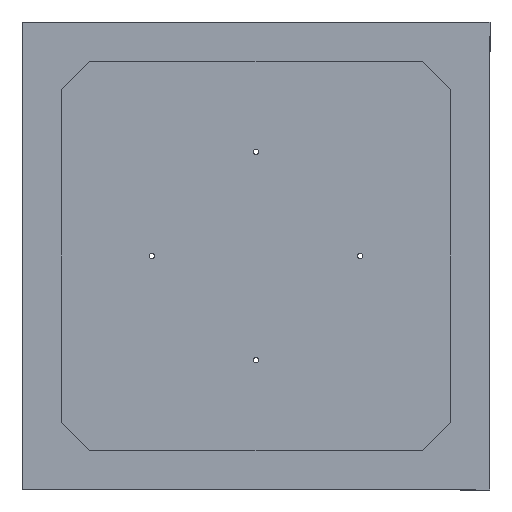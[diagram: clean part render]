
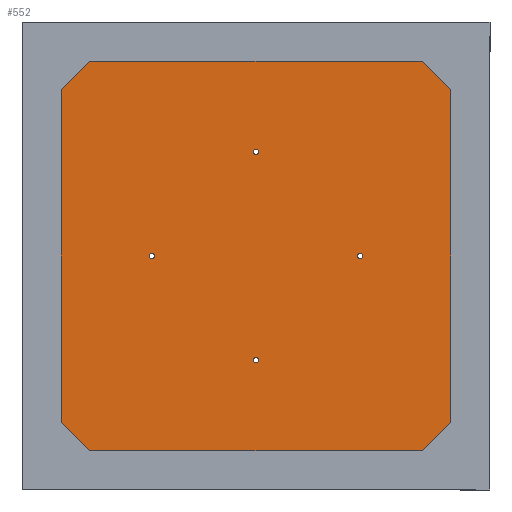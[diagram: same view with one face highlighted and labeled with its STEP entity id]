
A CAD part, front view. The second image highlights one B-rep face of the part: STEP entity #552.
In plain terms, the highlighted planar face has unit normal (0, -1, 0).
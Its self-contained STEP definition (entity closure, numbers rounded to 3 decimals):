
#19=LINE('',#840,#67);
#20=LINE('',#842,#68);
#21=LINE('',#844,#69);
#22=LINE('',#846,#70);
#23=LINE('',#848,#71);
#24=LINE('',#850,#72);
#25=LINE('',#852,#73);
#26=LINE('',#853,#74);
#67=VECTOR('',#690,10.);
#68=VECTOR('',#691,10.);
#69=VECTOR('',#692,10.);
#70=VECTOR('',#693,10.);
#71=VECTOR('',#694,10.);
#72=VECTOR('',#695,10.);
#73=VECTOR('',#696,10.);
#74=VECTOR('',#697,10.);
#124=FACE_BOUND('',#204,.T.);
#125=FACE_BOUND('',#205,.T.);
#126=FACE_BOUND('',#206,.T.);
#127=FACE_BOUND('',#207,.T.);
#161=FACE_OUTER_BOUND('',#203,.T.);
#203=EDGE_LOOP('',(#395,#396,#397,#398,#399,#400,#401,#402));
#204=EDGE_LOOP('',(#403));
#205=EDGE_LOOP('',(#404));
#206=EDGE_LOOP('',(#405));
#207=EDGE_LOOP('',(#406));
#253=CIRCLE('',#611,5.5);
#254=CIRCLE('',#612,5.5);
#255=CIRCLE('',#613,5.5);
#256=CIRCLE('',#614,5.5);
#271=VERTEX_POINT('',#838);
#272=VERTEX_POINT('',#839);
#273=VERTEX_POINT('',#841);
#274=VERTEX_POINT('',#843);
#275=VERTEX_POINT('',#845);
#276=VERTEX_POINT('',#847);
#277=VERTEX_POINT('',#849);
#278=VERTEX_POINT('',#851);
#279=VERTEX_POINT('',#854);
#280=VERTEX_POINT('',#856);
#281=VERTEX_POINT('',#858);
#282=VERTEX_POINT('',#860);
#321=EDGE_CURVE('',#271,#272,#19,.T.);
#322=EDGE_CURVE('',#273,#271,#20,.T.);
#323=EDGE_CURVE('',#274,#273,#21,.T.);
#324=EDGE_CURVE('',#275,#274,#22,.T.);
#325=EDGE_CURVE('',#276,#275,#23,.T.);
#326=EDGE_CURVE('',#277,#276,#24,.T.);
#327=EDGE_CURVE('',#278,#277,#25,.T.);
#328=EDGE_CURVE('',#272,#278,#26,.T.);
#329=EDGE_CURVE('',#279,#279,#253,.T.);
#330=EDGE_CURVE('',#280,#280,#254,.T.);
#331=EDGE_CURVE('',#281,#281,#255,.T.);
#332=EDGE_CURVE('',#282,#282,#256,.T.);
#395=ORIENTED_EDGE('',*,*,#321,.F.);
#396=ORIENTED_EDGE('',*,*,#322,.F.);
#397=ORIENTED_EDGE('',*,*,#323,.F.);
#398=ORIENTED_EDGE('',*,*,#324,.F.);
#399=ORIENTED_EDGE('',*,*,#325,.F.);
#400=ORIENTED_EDGE('',*,*,#326,.F.);
#401=ORIENTED_EDGE('',*,*,#327,.F.);
#402=ORIENTED_EDGE('',*,*,#328,.F.);
#403=ORIENTED_EDGE('',*,*,#329,.T.);
#404=ORIENTED_EDGE('',*,*,#330,.T.);
#405=ORIENTED_EDGE('',*,*,#331,.T.);
#406=ORIENTED_EDGE('',*,*,#332,.T.);
#519=PLANE('',#610);
#552=ADVANCED_FACE('',(#161,#124,#125,#126,#127),#519,.T.);
#610=AXIS2_PLACEMENT_3D('',#837,#688,#689);
#611=AXIS2_PLACEMENT_3D('',#855,#698,#699);
#612=AXIS2_PLACEMENT_3D('',#857,#700,#701);
#613=AXIS2_PLACEMENT_3D('',#859,#702,#703);
#614=AXIS2_PLACEMENT_3D('',#861,#704,#705);
#688=DIRECTION('center_axis',(0.,-1.,0.));
#689=DIRECTION('ref_axis',(0.,0.,-1.));
#690=DIRECTION('',(0.707,0.,-0.707));
#691=DIRECTION('',(1.,0.,0.));
#692=DIRECTION('',(0.707,0.,0.707));
#693=DIRECTION('',(0.,0.,1.));
#694=DIRECTION('',(-0.707,0.,0.707));
#695=DIRECTION('',(-1.,0.,0.));
#696=DIRECTION('',(-0.707,0.,-0.707));
#697=DIRECTION('',(0.,0.,-1.));
#698=DIRECTION('center_axis',(0.,1.,0.));
#699=DIRECTION('ref_axis',(-1.,0.,0.));
#700=DIRECTION('center_axis',(0.,1.,0.));
#701=DIRECTION('ref_axis',(-1.,0.,0.));
#702=DIRECTION('center_axis',(0.,1.,0.));
#703=DIRECTION('ref_axis',(-1.,0.,0.));
#704=DIRECTION('center_axis',(0.,1.,0.));
#705=DIRECTION('ref_axis',(-1.,0.,0.));
#837=CARTESIAN_POINT('Origin',(0.,0.,0.));
#838=CARTESIAN_POINT('',(350.,0.,410.));
#839=CARTESIAN_POINT('',(410.,0.,350.));
#840=CARTESIAN_POINT('',(350.,0.,410.));
#841=CARTESIAN_POINT('',(-350.,0.,410.));
#842=CARTESIAN_POINT('',(-350.,0.,410.));
#843=CARTESIAN_POINT('',(-410.,0.,350.));
#844=CARTESIAN_POINT('',(-410.,0.,350.));
#845=CARTESIAN_POINT('',(-410.,0.,-350.));
#846=CARTESIAN_POINT('',(-410.,0.,-350.));
#847=CARTESIAN_POINT('',(-350.,0.,-410.));
#848=CARTESIAN_POINT('',(-350.,0.,-410.));
#849=CARTESIAN_POINT('',(350.,0.,-410.));
#850=CARTESIAN_POINT('',(350.,0.,-410.));
#851=CARTESIAN_POINT('',(410.,0.,-350.));
#852=CARTESIAN_POINT('',(410.,0.,-350.));
#853=CARTESIAN_POINT('',(410.,0.,350.));
#854=CARTESIAN_POINT('',(5.5,0.,-219.));
#855=CARTESIAN_POINT('Origin',(0.,0.,
-219.));
#856=CARTESIAN_POINT('',(5.5,0.,219.));
#857=CARTESIAN_POINT('Origin',(0.,0.,
219.));
#858=CARTESIAN_POINT('',(224.5,0.,0.));
#859=CARTESIAN_POINT('Origin',(219.,0.,0.));
#860=CARTESIAN_POINT('',(-213.5,0.,0.));
#861=CARTESIAN_POINT('Origin',(-219.,0.,0.));
